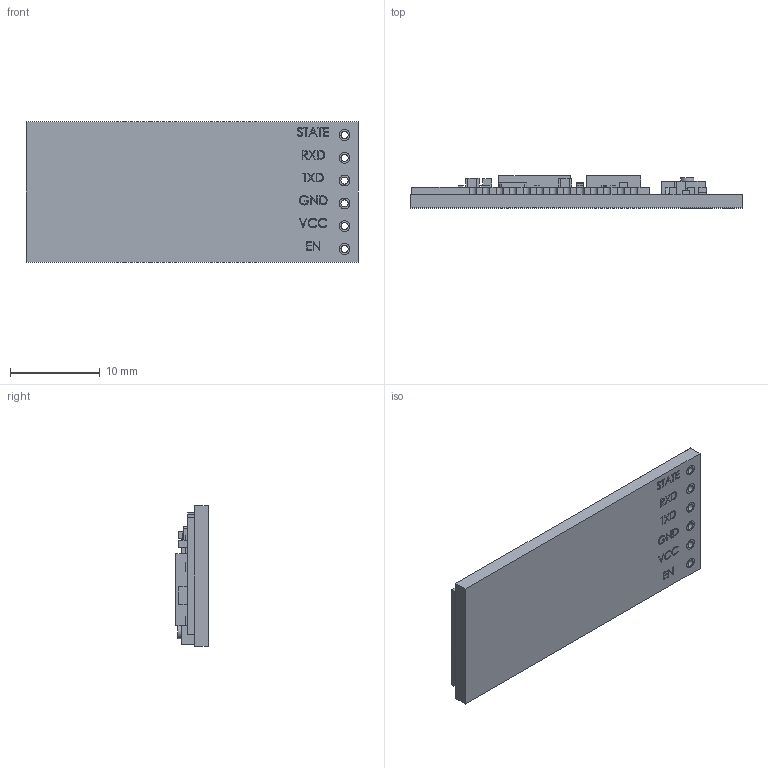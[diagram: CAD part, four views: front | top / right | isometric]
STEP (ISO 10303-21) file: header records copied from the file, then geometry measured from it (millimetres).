
FILE_DESCRIPTION (( 'STEP AP214' ), '1' );
FILE_NAME ('HC05.STEP', '2025-09-28T16:09:36', ( '' ), ( '' ), 'SwSTEP 2.0', 'SolidWorks 2023', '' );
FILE_SCHEMA (( 'AUTOMOTIVE_DESIGN' ));
Length unit declared in the file: millimetre
Products named in the file (1): HC05
Bounding box: 37 x 3.62 x 15.7 mm (x, y, z)
Volume: 1325.4 mm3; surface area: 1603.5 mm2
Topology: 1 solids, 1 shells, 2066 faces, 5528 edges, 3644 vertices
Faces by surface type: plane 1750, bspline 259, cylinder 57
Full cylindrical faces by diameter (mm): 0.8 x6, 1.2 x12, 1.5 x1
Entity records: 99925 total; most frequent: CARTESIAN_POINT 27823, ORIENTED_EDGE 10994, DIRECTION 8709, EDGE_CURVE 5497, LINE 4865, VECTOR 4865, VERTEX_POINT 3632, EDGE_LOOP 2287
